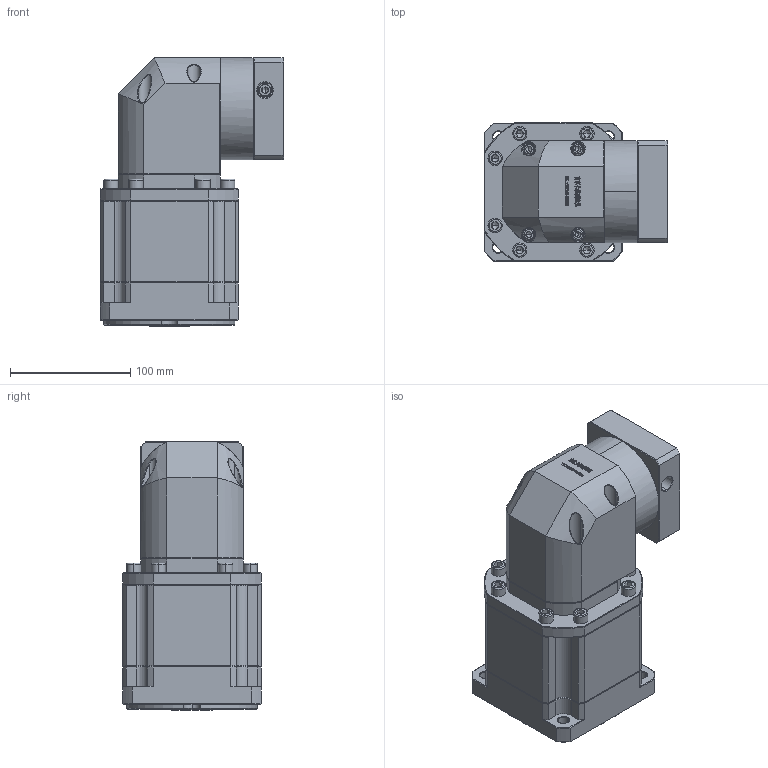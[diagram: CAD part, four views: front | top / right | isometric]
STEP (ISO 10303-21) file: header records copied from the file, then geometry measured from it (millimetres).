
FILE_DESCRIPTION (( 'STEP AP214' ), '1' );
FILE_NAME ('ZBR115A-K25-L3-16-80-100-M6.step', '2023-03-02T14:40:32', ( '' ), ( 'Microsoft' ), 'SwSTEP 2.0', 'SolidWorks 2016', '' );
FILE_SCHEMA (( 'AUTOMOTIVE_DESIGN' ));
Length unit declared in the file: millimetre
Products named in the file (1): ZBR115A-K25-L3-16-80-100-M6
Bounding box: 152.6 x 115 x 223.5 mm (x, y, z)
Volume: 2220745.7 mm3; surface area: 187298.5 mm2
Topology: 6 solids, 6 shells, 3147 faces, 8261 edges, 5267 vertices
Faces by surface type: plane 1692, bspline 624, cylinder 446, cone 371, torus 14
Entity records: 165574 total; most frequent: CARTESIAN_POINT 58291, ORIENTED_EDGE 16418, DIRECTION 12698, EDGE_CURVE 8209, LINE 5540, VECTOR 5540, VERTEX_POINT 5267, AXIS2_PLACEMENT_3D 3579
